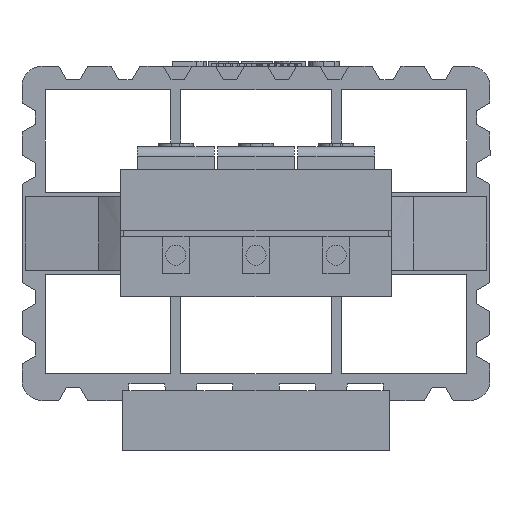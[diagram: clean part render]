
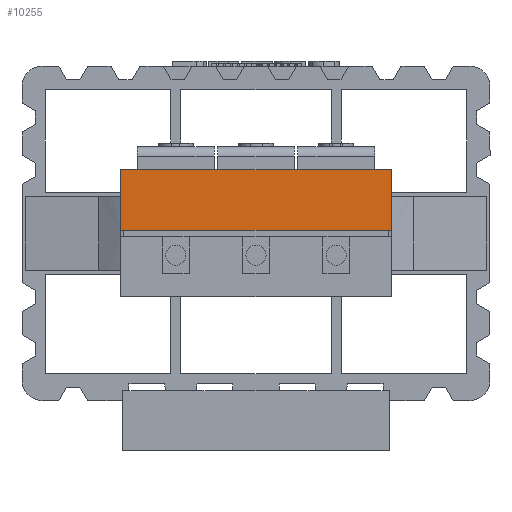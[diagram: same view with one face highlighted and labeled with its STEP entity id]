
A CAD part, front view. The second image highlights one B-rep face of the part: STEP entity #10255.
In plain terms, the highlighted planar face has unit normal (0, -1, 0).
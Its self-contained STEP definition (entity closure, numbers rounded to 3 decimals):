
#2495 = EDGE_LOOP ( 'NONE', ( #5068, #4045, #4128, #4317 ) ) ;
#3039 = LINE ( 'NONE', #14735, #3566 ) ;
#3212 = VECTOR ( 'NONE', #14651, 1000. ) ;
#3566 = VECTOR ( 'NONE', #14727, 1000. ) ;
#3601 = FACE_OUTER_BOUND ( 'NONE', #2495, .T. ) ;
#3861 = LINE ( 'NONE', #14650, #3212 ) ;
#4045 = ORIENTED_EDGE ( 'NONE', *, *, #13015, .T. ) ;
#4128 = ORIENTED_EDGE ( 'NONE', *, *, #12980, .F. ) ;
#4172 = VERTEX_POINT ( 'NONE', #13410 ) ;
#4317 = ORIENTED_EDGE ( 'NONE', *, *, #12951, .F. ) ;
#4320 = VERTEX_POINT ( 'NONE', #13409 ) ;
#4911 = VERTEX_POINT ( 'NONE', #13539 ) ;
#5068 = ORIENTED_EDGE ( 'NONE', *, *, #13253, .F. ) ;
#5094 = VERTEX_POINT ( 'NONE', #13693 ) ;
#6169 = LINE ( 'NONE', #14811, #6296 ) ;
#6296 = VECTOR ( 'NONE', #14813, 1000. ) ;
#6300 = LINE ( 'NONE', #15293, #6365 ) ;
#6365 = VECTOR ( 'NONE', #15294, 1000. ) ;
#10255 = ADVANCED_FACE ( 'NONE', ( #3601 ), #15955, .T. ) ;
#12951 = EDGE_CURVE ( 'NONE', #4172, #4320, #3861, .T. ) ;
#12980 = EDGE_CURVE ( 'NONE', #4320, #4911, #3039, .T. ) ;
#13015 = EDGE_CURVE ( 'NONE', #5094, #4911, #6169, .T. ) ;
#13253 = EDGE_CURVE ( 'NONE', #5094, #4172, #6300, .T. ) ;
#13409 = CARTESIAN_POINT ( 'NONE',  ( 14.75, -148.5, 36. ) ) ;
#13410 = CARTESIAN_POINT ( 'NONE',  ( 14.75, -148.5, 27. ) ) ;
#13539 = CARTESIAN_POINT ( 'NONE',  ( 55.25, -148.5, 36. ) ) ;
#13693 = CARTESIAN_POINT ( 'NONE',  ( 55.25, -148.5, 27. ) ) ;
#14650 = CARTESIAN_POINT ( 'NONE',  ( 14.75, -148.5, -57.532 ) ) ;
#14651 = DIRECTION ( 'NONE',  ( 0., 0., 1. ) ) ;
#14727 = DIRECTION ( 'NONE',  ( 1., 0., 0. ) ) ;
#14735 = CARTESIAN_POINT ( 'NONE',  ( 14.75, -148.5, 36. ) ) ;
#14811 = CARTESIAN_POINT ( 'NONE',  ( 55.25, -148.5, -57.532 ) ) ;
#14813 = DIRECTION ( 'NONE',  ( 0., 0., 1. ) ) ;
#15074 = AXIS2_PLACEMENT_3D ( 'NONE', #15957, #15962, #15963 ) ;
#15293 = CARTESIAN_POINT ( 'NONE',  ( 14.75, -148.5, 27. ) ) ;
#15294 = DIRECTION ( 'NONE',  ( -1., 0., 0. ) ) ;
#15955 = PLANE ( 'NONE',  #15074 ) ;
#15957 = CARTESIAN_POINT ( 'NONE',  ( 14.75, -148.5, -57.532 ) ) ;
#15962 = DIRECTION ( 'NONE',  ( 0., -1., 0. ) ) ;
#15963 = DIRECTION ( 'NONE',  ( 0., 0., -1. ) ) ;
